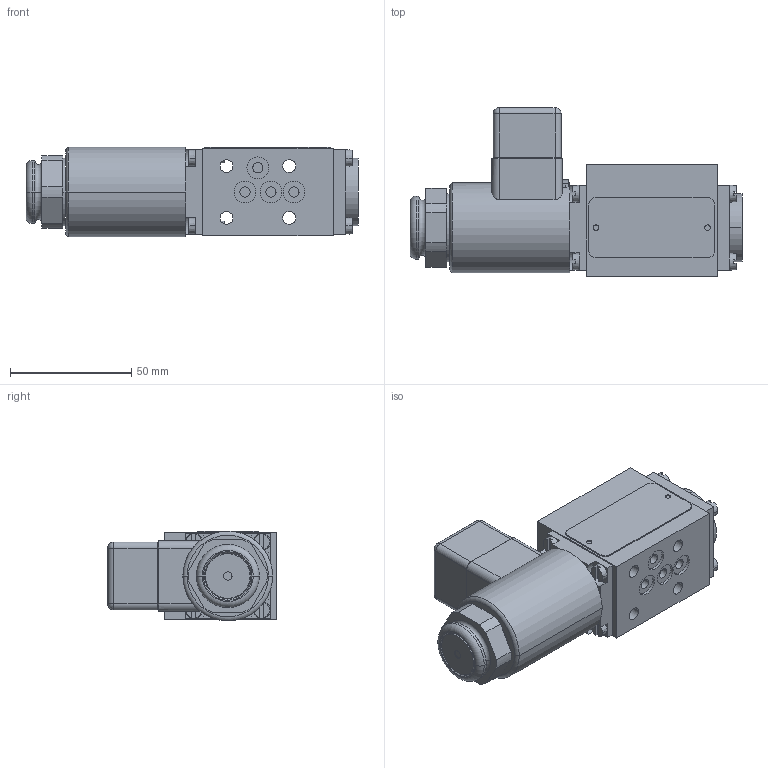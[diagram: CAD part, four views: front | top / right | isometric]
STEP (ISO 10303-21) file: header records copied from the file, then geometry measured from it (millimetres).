
FILE_DESCRIPTION((''),'2;1');
FILE_NAME('RPE2-043-3_ASM','2019-08-21T',('j.koudelka'),(''),'PRO/ENGINEER BY PARAMETRIC TECHNOLOGY CORPORATION, 2015440','PRO/ENGINEER BY PARAMETRIC TECHNOLOGY CORPORATION, 2015440','');
FILE_SCHEMA(('AUTOMOTIVE_DESIGN { 1 0 10303 214 1 1 1 1 }'));
Length unit declared in the file: millimetre
Products named in the file (7): RPE2-043-3_AF1; 32246100; C19B_E1_AF0; RD_LABEL_25X52_159703; ISO_1207_M4X12_202229; ZATKA2_AF1; RPE2-043-3_ASM
Assembly tree (13 placements, depth 2):
  RPE2-043-3_ASM
    RPE2-043-3_AF1
    32246100
    C19B_E1_AF0
    RD_LABEL_25X52_159703
    ISO_1207_M4X12_202229  x8
    ZATKA2_AF1
Bounding box: 136.9 x 69.5 x 37 mm (x, y, z)
Volume: 186496.8 mm3; surface area: 48660.4 mm2
Topology: 13 solids, 23 shells, 332 faces, 906 edges, 707 vertices
Faces by surface type: cylinder 147, plane 145, cone 28, torus 8, sphere 4
Entity records: 11711 total; most frequent: DIRECTION 1485, CARTESIAN_POINT 1475, ORIENTED_EDGE 1062, PRESENTATION_STYLE_ASSIGNMENT 811, STYLED_ITEM 712, CURVE_STYLE 689, AXIS2_PLACEMENT_3D 549, EDGE_CURVE 535
